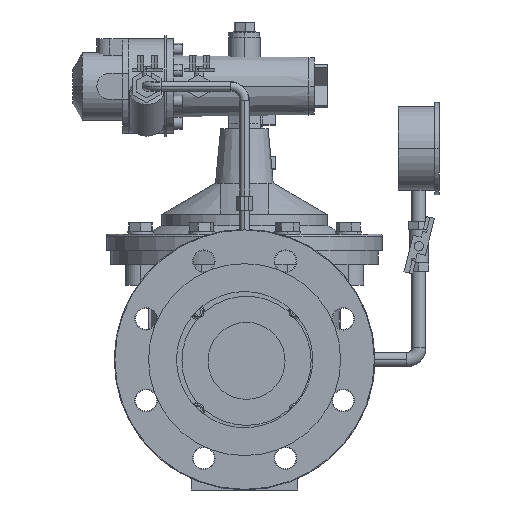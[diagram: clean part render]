
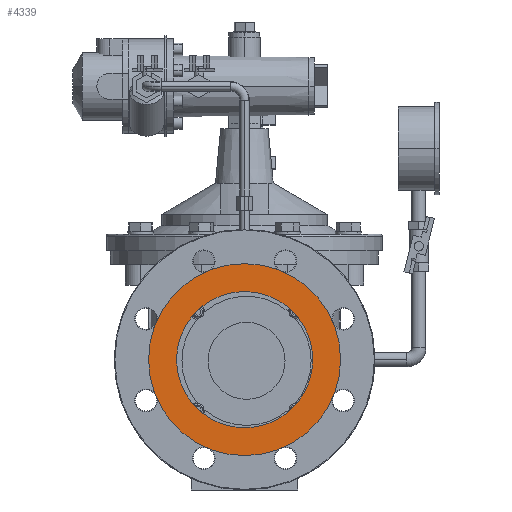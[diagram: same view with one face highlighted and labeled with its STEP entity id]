
A CAD part, left-side view. The second image highlights one B-rep face of the part: STEP entity #4339.
In plain terms, the highlighted planar face has unit normal (-1, 0, 0).
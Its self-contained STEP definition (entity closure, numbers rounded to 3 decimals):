
#4339=ADVANCED_FACE('',(#7652,#7653),#7654,.T.);
#7652=FACE_BOUND('',#10807,.T.);
#7653=FACE_OUTER_BOUND('',#10808,.T.);
#7654=PLANE('',#10809);
#10807=EDGE_LOOP('',(#20632,#20633));
#10808=EDGE_LOOP('',(#20634,#20635));
#10809=AXIS2_PLACEMENT_3D('',#20636,#20637,#20638);
#20632=ORIENTED_EDGE('',*,*,#24592,.T.);
#20633=ORIENTED_EDGE('',*,*,#24588,.T.);
#20634=ORIENTED_EDGE('',*,*,#24593,.F.);
#20635=ORIENTED_EDGE('',*,*,#24586,.F.);
#20636=CARTESIAN_POINT('',(-756.083,0.0,0.0));
#20637=DIRECTION('',(-1.0,0.0,0.));
#20638=DIRECTION('',(0.,0.0,1.0));
#24586=EDGE_CURVE('',#29768,#29764,#29770,.T.);
#24588=EDGE_CURVE('',#29774,#29771,#29775,.T.);
#24592=EDGE_CURVE('',#29771,#29774,#29780,.T.);
#24593=EDGE_CURVE('',#29764,#29768,#29781,.T.);
#29764=VERTEX_POINT('',#36709);
#29768=VERTEX_POINT('',#36714);
#29770=CIRCLE('',#36717,81.0);
#29771=VERTEX_POINT('',#36718);
#29774=VERTEX_POINT('',#36722);
#29775=CIRCLE('',#36723,57.5);
#29780=CIRCLE('',#36729,57.5);
#29781=CIRCLE('',#36730,81.0);
#36709=CARTESIAN_POINT('',(-756.083,0.0,81.0));
#36714=CARTESIAN_POINT('',(-756.083,0.,-81.0));
#36717=AXIS2_PLACEMENT_3D('',#42370,#42371,#42372);
#36718=CARTESIAN_POINT('',(-756.083,0.0,57.5));
#36722=CARTESIAN_POINT('',(-756.083,0.,-57.5));
#36723=AXIS2_PLACEMENT_3D('',#42374,#42375,#42376);
#36729=AXIS2_PLACEMENT_3D('',#42384,#42385,#42386);
#36730=AXIS2_PLACEMENT_3D('',#42387,#42388,#42389);
#42370=CARTESIAN_POINT('',(-756.083,0.0,0.0));
#42371=DIRECTION('',(1.0,0.0,0.));
#42372=DIRECTION('',(0.,0.0,1.0));
#42374=CARTESIAN_POINT('',(-756.083,0.0,0.0));
#42375=DIRECTION('',(1.0,0.0,0.));
#42376=DIRECTION('',(0.,0.0,1.0));
#42384=CARTESIAN_POINT('',(-756.083,0.0,0.0));
#42385=DIRECTION('',(1.0,0.0,0.));
#42386=DIRECTION('',(0.,0.0,1.0));
#42387=CARTESIAN_POINT('',(-756.083,0.0,0.0));
#42388=DIRECTION('',(1.0,0.0,0.));
#42389=DIRECTION('',(0.,0.0,1.0));
